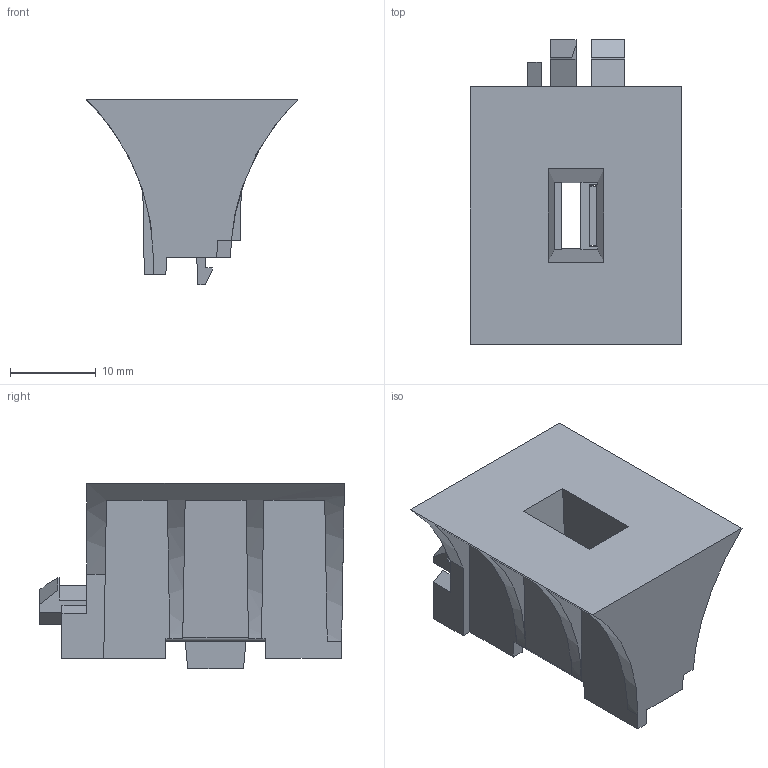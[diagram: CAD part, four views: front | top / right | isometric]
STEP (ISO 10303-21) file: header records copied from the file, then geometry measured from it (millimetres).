
FILE_DESCRIPTION (( 'STEP AP214' ), '1' );
FILE_NAME ('067RCB1CCS001.STEP', '2024-09-23T08:41:02', ( '' ), ( '' ), 'SwSTEP 2.0', 'SolidWorks 2023', '' );
FILE_SCHEMA (( 'AUTOMOTIVE_DESIGN' ));
Length unit declared in the file: millimetre
Products named in the file (1): 067RCB1CCS001
Bounding box: 24.69 x 35.5 x 21.6 mm (x, y, z)
Volume: 4237.1 mm3; surface area: 4841.7 mm2
Topology: 1 solids, 1 shells, 102 faces, 292 edges, 192 vertices
Faces by surface type: plane 93, cylinder 9
Entity records: 3303 total; most frequent: CARTESIAN_POINT 710, ORIENTED_EDGE 584, DIRECTION 467, EDGE_CURVE 292, LINE 249, VECTOR 249, VERTEX_POINT 192, AXIS2_PLACEMENT_3D 109
